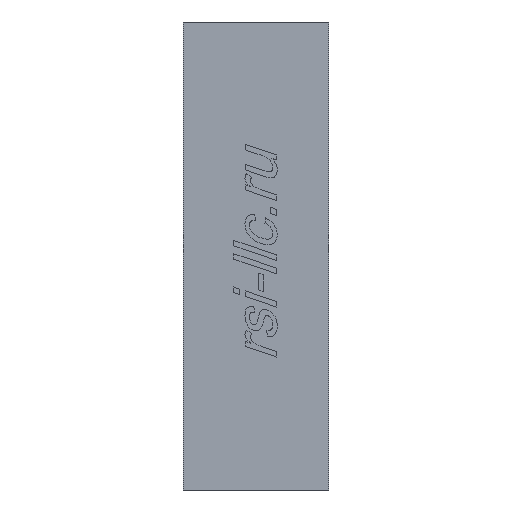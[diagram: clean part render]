
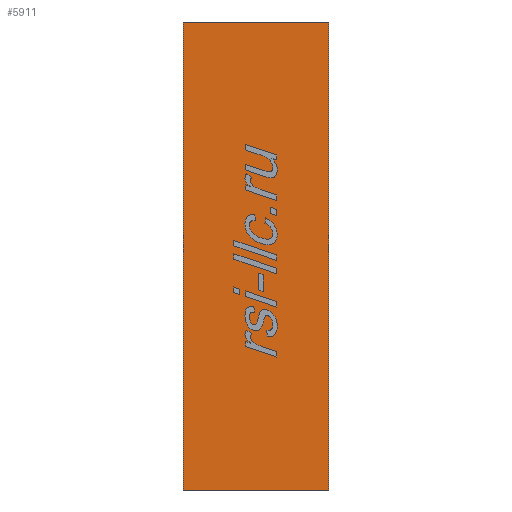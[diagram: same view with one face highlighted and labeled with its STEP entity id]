
A CAD part, front view. The second image highlights one B-rep face of the part: STEP entity #5911.
In plain terms, the highlighted planar face has unit normal (0, -1, 0).
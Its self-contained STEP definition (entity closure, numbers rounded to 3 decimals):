
#89 = EDGE_CURVE ( 'NONE', #2437, #3323, #1636, .T. ) ;
#291 = DIRECTION ( 'NONE',  ( -1., 0., 0. ) ) ;
#331 = CARTESIAN_POINT ( 'NONE',  ( -21., 0., -67.5 ) ) ;
#404 = LINE ( 'NONE', #2526, #5019 ) ;
#470 = ORIENTED_EDGE ( 'NONE', *, *, #2943, .T. ) ;
#710 = CARTESIAN_POINT ( 'NONE',  ( 21., 0., 67.5 ) ) ;
#741 = CARTESIAN_POINT ( 'NONE',  ( 21., 0., -67.5 ) ) ;
#921 = VECTOR ( 'NONE', #291, 1000. ) ;
#1110 = DIRECTION ( 'NONE',  ( 0., 0., 1. ) ) ;
#1629 = PLANE ( 'NONE',  #4589 ) ;
#1636 = LINE ( 'NONE', #3748, #5034 ) ;
#2437 = VERTEX_POINT ( 'NONE', #5010 ) ;
#2526 = CARTESIAN_POINT ( 'NONE',  ( -21., 0., 67.5 ) ) ;
#2778 = EDGE_CURVE ( 'NONE', #2960, #4911, #404, .T. ) ;
#2833 = DIRECTION ( 'NONE',  ( -1., 0., 0. ) ) ;
#2931 = LINE ( 'NONE', #5048, #921 ) ;
#2943 = EDGE_CURVE ( 'NONE', #2437, #2960, #5442, .T. ) ;
#2960 = VERTEX_POINT ( 'NONE', #4417 ) ;
#3140 = VECTOR ( 'NONE', #2833, 1000. ) ;
#3323 = VERTEX_POINT ( 'NONE', #741 ) ;
#3740 = CARTESIAN_POINT ( 'NONE',  ( 21., 0., 67.5 ) ) ;
#3748 = CARTESIAN_POINT ( 'NONE',  ( 21., 0., 67.5 ) ) ;
#4181 = ORIENTED_EDGE ( 'NONE', *, *, #4192, .F. ) ;
#4192 = EDGE_CURVE ( 'NONE', #3323, #4911, #2931, .T. ) ;
#4417 = CARTESIAN_POINT ( 'NONE',  ( -21., 0., 67.5 ) ) ;
#4589 = AXIS2_PLACEMENT_3D ( 'NONE', #3740, #5825, #1110 ) ;
#4643 = DIRECTION ( 'NONE',  ( 0., 0., -1. ) ) ;
#4704 = ORIENTED_EDGE ( 'NONE', *, *, #89, .F. ) ;
#4911 = VERTEX_POINT ( 'NONE', #331 ) ;
#5010 = CARTESIAN_POINT ( 'NONE',  ( 21., 0., 67.5 ) ) ;
#5019 = VECTOR ( 'NONE', #4643, 1000. ) ;
#5034 = VECTOR ( 'NONE', #5831, 1000. ) ;
#5048 = CARTESIAN_POINT ( 'NONE',  ( 21., 0., -67.5 ) ) ;
#5442 = LINE ( 'NONE', #710, #3140 ) ;
#5825 = DIRECTION ( 'NONE',  ( 0., 1., 0. ) ) ;
#5831 = DIRECTION ( 'NONE',  ( 0., 0., -1. ) ) ;
#5911 = ADVANCED_FACE ( 'NONE', ( #6332 ), #1629, .F. ) ;
#6112 = EDGE_LOOP ( 'NONE', ( #6255, #4181, #4704, #470 ) ) ;
#6255 = ORIENTED_EDGE ( 'NONE', *, *, #2778, .T. ) ;
#6332 = FACE_OUTER_BOUND ( 'NONE', #6112, .T. ) ;
